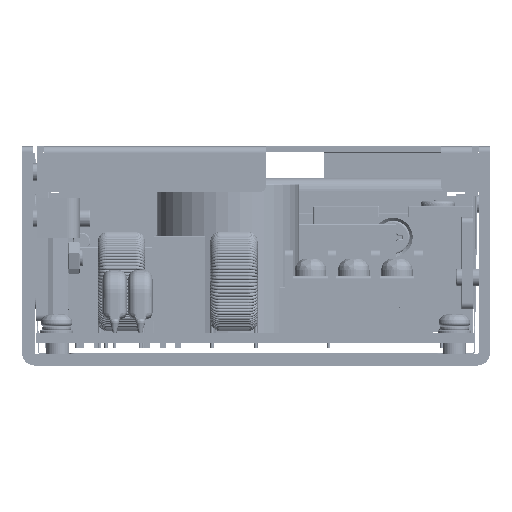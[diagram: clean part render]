
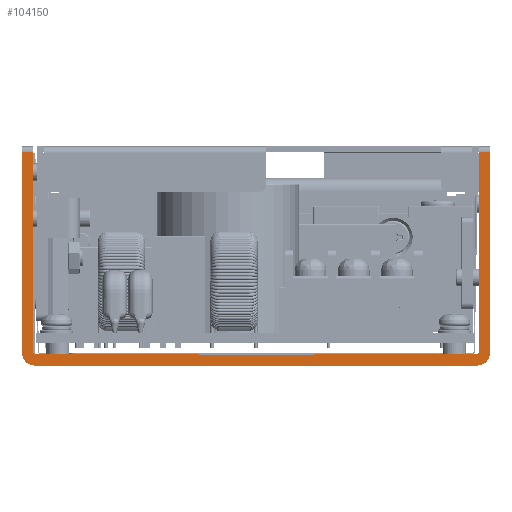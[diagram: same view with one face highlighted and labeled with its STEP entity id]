
A CAD part, left-side view. The second image highlights one B-rep face of the part: STEP entity #104150.
In plain terms, the highlighted planar face has unit normal (-1, 0, 0).
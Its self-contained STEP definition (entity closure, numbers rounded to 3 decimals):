
#8347=PLANE($,#112207);
#9862=FACE_OUTER_BOUND($,#17723,.T.);
#17723=EDGE_LOOP($,(#67684,#67685,#67686,#67687,#67688,#67689,#67690,#67691,
#67692,#67693,#67694,#67695));
#26768=LINE($,#166021,#31542);
#26791=LINE($,#166117,#31565);
#26792=LINE($,#166121,#31566);
#26793=LINE($,#166125,#31567);
#26811=LINE($,#166209,#31585);
#26812=LINE($,#166212,#31586);
#26813=LINE($,#166214,#31587);
#26814=LINE($,#166218,#31588);
#31542=VECTOR($,#128549,34.9);
#31565=VECTOR($,#128628,34.9);
#31566=VECTOR($,#128633,2.);
#31567=VECTOR($,#128638,34.9);
#31585=VECTOR($,#128706,77.);
#31586=VECTOR($,#128709,2.);
#31587=VECTOR($,#128710,34.9);
#31588=VECTOR($,#128713,77.);
#36369=CIRCLE($,#112208,2.2);
#36370=CIRCLE($,#112209,2.2);
#36371=CIRCLE($,#112210,0.2);
#36372=CIRCLE($,#112211,0.2);
#44179=VERTEX_POINT($,#166018);
#44180=VERTEX_POINT($,#166020);
#44224=VERTEX_POINT($,#166114);
#44225=VERTEX_POINT($,#166116);
#44226=VERTEX_POINT($,#166120);
#44227=VERTEX_POINT($,#166124);
#44267=VERTEX_POINT($,#166206);
#44268=VERTEX_POINT($,#166208);
#44269=VERTEX_POINT($,#166211);
#44270=VERTEX_POINT($,#166213);
#44271=VERTEX_POINT($,#166215);
#44272=VERTEX_POINT($,#166217);
#52249=EDGE_CURVE($,#44180,#44179,#26768,.T.);
#52297=EDGE_CURVE($,#44225,#44224,#26791,.T.);
#52299=EDGE_CURVE($,#44225,#44226,#26792,.T.);
#52301=EDGE_CURVE($,#44227,#44226,#26793,.T.);
#52342=EDGE_CURVE($,#44224,#44267,#36369,.T.);
#52343=EDGE_CURVE($,#44267,#44268,#26811,.T.);
#52344=EDGE_CURVE($,#44268,#44180,#36370,.T.);
#52345=EDGE_CURVE($,#44269,#44179,#26812,.T.);
#52346=EDGE_CURVE($,#44269,#44270,#26813,.T.);
#52347=EDGE_CURVE($,#44270,#44271,#36371,.T.);
#52348=EDGE_CURVE($,#44271,#44272,#26814,.T.);
#52349=EDGE_CURVE($,#44272,#44227,#36372,.T.);
#67684=ORIENTED_EDGE($,*,*,#52299,.F.);
#67685=ORIENTED_EDGE($,*,*,#52297,.T.);
#67686=ORIENTED_EDGE($,*,*,#52342,.T.);
#67687=ORIENTED_EDGE($,*,*,#52343,.T.);
#67688=ORIENTED_EDGE($,*,*,#52344,.T.);
#67689=ORIENTED_EDGE($,*,*,#52249,.T.);
#67690=ORIENTED_EDGE($,*,*,#52345,.F.);
#67691=ORIENTED_EDGE($,*,*,#52346,.T.);
#67692=ORIENTED_EDGE($,*,*,#52347,.T.);
#67693=ORIENTED_EDGE($,*,*,#52348,.T.);
#67694=ORIENTED_EDGE($,*,*,#52349,.T.);
#67695=ORIENTED_EDGE($,*,*,#52301,.T.);
#104150=ADVANCED_FACE($,(#9862),#8347,.T.);
#112207=AXIS2_PLACEMENT_3D($,#166205,#128702,#128703);
#112208=AXIS2_PLACEMENT_3D($,#166207,#128704,#128705);
#112209=AXIS2_PLACEMENT_3D($,#166210,#128707,#128708);
#112210=AXIS2_PLACEMENT_3D($,#166216,#128711,#128712);
#112211=AXIS2_PLACEMENT_3D($,#166219,#128714,#128715);
#128549=DIRECTION($,(0.,0.,1.));
#128628=DIRECTION($,(0.,0.,-1.));
#128633=DIRECTION($,(0.,-1.,0.));
#128638=DIRECTION($,(0.,0.,1.));
#128702=DIRECTION('center_axis',(-1.,0.,0.));
#128703=DIRECTION('ref_axis',(0.,0.,1.));
#128704=DIRECTION('center_axis',(-1.,0.,0.));
#128705=DIRECTION('ref_axis',(0.,1.,0.));
#128706=DIRECTION($,(0.,-1.,0.));
#128707=DIRECTION('center_axis',(-1.,0.,0.));
#128708=DIRECTION('ref_axis',(0.,0.,-1.));
#128709=DIRECTION($,(0.,-1.,0.));
#128710=DIRECTION($,(0.,0.,-1.));
#128711=DIRECTION('center_axis',(1.,0.,0.));
#128712=DIRECTION('ref_axis',(0.,-1.,0.));
#128713=DIRECTION($,(0.,1.,0.));
#128714=DIRECTION('center_axis',(1.,0.,0.));
#128715=DIRECTION('ref_axis',(0.,0.,-1.));
#166018=CARTESIAN_POINT('',(0.,0.,
37.1));
#166020=CARTESIAN_POINT('',(0.,0.,
2.2));
#166021=CARTESIAN_POINT($,(0.,0.,
2.2));
#166114=CARTESIAN_POINT('',(0.,81.4,2.2));
#166116=CARTESIAN_POINT('',(0.,81.4,37.1));
#166117=CARTESIAN_POINT($,(0.,81.4,-1.193));
#166120=CARTESIAN_POINT('',(0.,79.4,37.1));
#166121=CARTESIAN_POINT($,(0.,39.7,37.1));
#166124=CARTESIAN_POINT('',(0.,79.4,2.2));
#166125=CARTESIAN_POINT($,(0.,79.4,-1.193));
#166205=CARTESIAN_POINT('Origin',(0.,0.,0.));
#166206=CARTESIAN_POINT('',(0.,79.2,0.));
#166207=CARTESIAN_POINT('Origin',(0.,79.2,2.2));
#166208=CARTESIAN_POINT('',(0.,2.2,0.));
#166209=CARTESIAN_POINT($,(0.,81.4,0.));
#166210=CARTESIAN_POINT('Origin',(0.,2.2,2.2));
#166211=CARTESIAN_POINT('',(0.,2.,37.1));
#166212=CARTESIAN_POINT($,(0.,1.,37.1));
#166213=CARTESIAN_POINT('',(0.,2.,2.2));
#166214=CARTESIAN_POINT($,(0.,2.,-1.193));
#166215=CARTESIAN_POINT('',(0.,2.2,2.));
#166216=CARTESIAN_POINT('Origin',(0.,2.2,2.2));
#166217=CARTESIAN_POINT('',(0.,79.2,2.));
#166218=CARTESIAN_POINT($,(0.,81.4,2.));
#166219=CARTESIAN_POINT('Origin',(0.,79.2,2.2));
